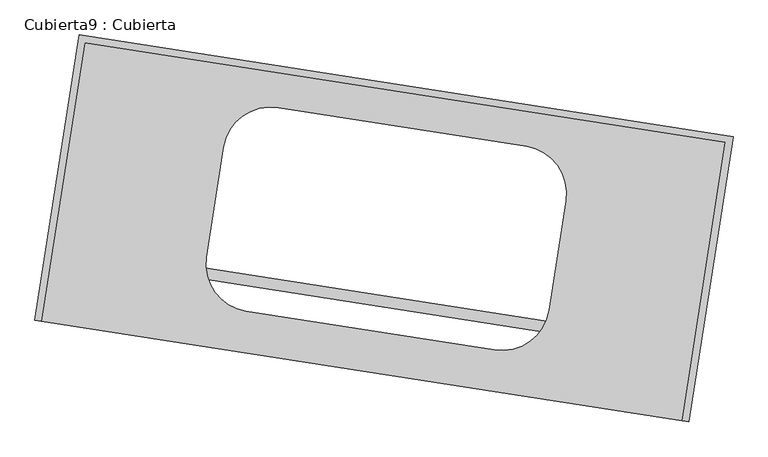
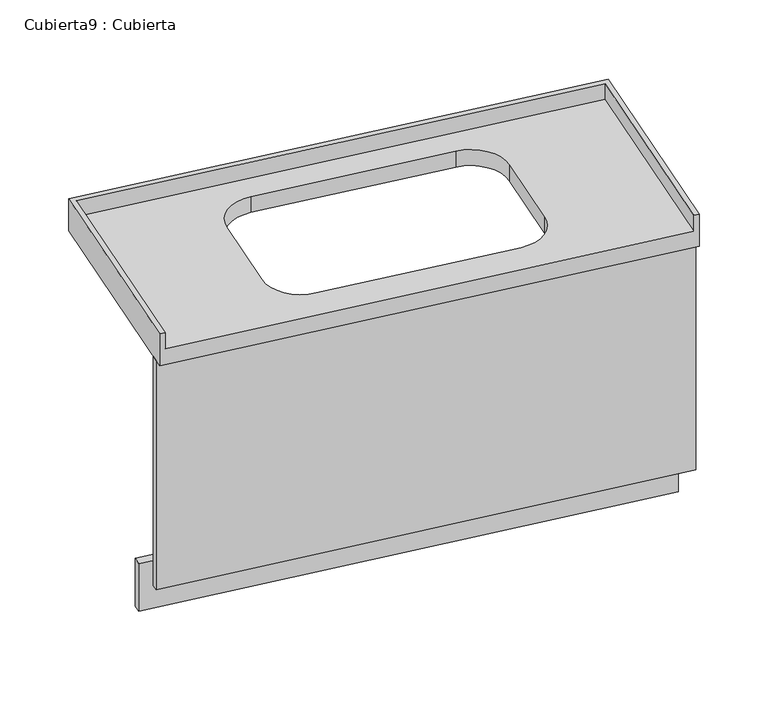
"""IFC4 building model written with IfcOpenShell, lengths in millimetres: furniture geometry, Cubierta9 : Cubierta."""

from ifc_helpers import new_model, si_unit, frame, origin, place, context, project, spatial, polyline, circle_curve, outline, extrude, source, transform, mapped, element, save
from ifc_brep_helpers import plane_surface, revolved_surface, advanced_brep


def cubierta9_cubierta_f3590e41(model_context):
    return source(origin(), model_context, "Body", "SolidModel", [
        extrude(outline(polyline([(-44296.2782533, -71757.6545898), (-45768.5015172, -71528.1798789), (-45764.6512704, -71503.4781462), (-44292.4280064, -71732.9528571), (-44296.2782533, -71757.6545898)])), frame((0.0, 0.0, 3200.0), z_axis=(0.0, 0.0, 1.0), x_axis=(1.0, 0.0, 0.0)), (0.0, 0.0, 1.0), 150.0),
        extrude(outline(polyline([(-44315.5294875, -71881.1632534), (-45787.7527514, -71651.6885425), (-45784.6725539, -71631.9271563), (-44312.44929, -71861.4018672), (-44315.5294875, -71881.1632534)])), frame((0.0, 0.0, 3350.0), z_axis=(0.0, 0.0, 1.0), x_axis=(1.0, 0.0, 0.0)), (0.0, 0.0, 1.0), 720.0),
        advanced_brep(
        [(-45776.7819586, -71678.7004233, 4120.0), (-44334.2007739, -71903.554838, 4120.0), (-44236.404504, -71276.130827, 4120.0), (-45678.9856888, -71051.2764123, 4120.0), (-45404.6020427, -71534.2969722, 4120.0), (-45366.0995742, -71287.279645, 4120.0), (-45243.8971017, -71198.0352854, 4120.0), (-44685.6379423, -71285.0508641, 4120.0), (-44596.3935828, -71407.2533366, 4120.0), (-44634.8960512, -71654.2706638, 4120.0), (-44757.0985237, -71743.5150234, 4120.0), (-45315.3576831, -71656.4994447, 4120.0), (-44219.2733163, -71263.6199354, 4070.0), (-44319.3797344, -71905.8649861, 4070.0), (-45791.6029983, -71676.3902752, 4070.0), (-45691.4965803, -71034.1452245, 4070.0), (-45404.6020427, -71534.2969722, 4070.0), (-45315.3576831, -71656.4994447, 4070.0), (-44757.0985237, -71743.5150234, 4070.0), (-44634.8960512, -71654.2706638, 4070.0), (-44596.3935828, -71407.2533366, 4070.0), (-44685.6379423, -71285.0508641, 4070.0), (-45243.8971017, -71198.0352854, 4070.0), (-45366.0995742, -71287.279645, 4070.0), (-44319.3797342, -71905.8649861, 4170.0), (-44334.2007739, -71903.554838, 4170.0), (-45776.7819586, -71678.7004233, 4170.0), (-45791.6029983, -71676.3902752, 4170.0), (-44236.404504, -71276.130827, 4170.0), (-45678.9856888, -71051.2764123, 4170.0), (-45691.4965803, -71034.1452245, 4170.0), (-44219.2733163, -71263.6199355, 4170.0)],
        [
            (0, 1),
            (1, 2),
            (2, 3),
            (3, 0),
            (4, 5),
            (5, 6, circle_curve(frame((-45260.3761582, -71303.7587015, 4120.0), z_axis=(0.0, 0.0, -1.0), x_axis=(0.9880693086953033, -0.1540098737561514, 0.0)), 107.0)),
            (6, 7),
            (7, 8, circle_curve(frame((-44702.1169988, -71390.7742801, 4120.0), z_axis=(0.0, 0.0, -1.0), x_axis=(0.9880693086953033, -0.1540098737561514, 0.0)), 107.0)),
            (8, 9),
            (9, 10, circle_curve(frame((-44740.6194672, -71637.7916073, 4120.0), z_axis=(0.0, 0.0, -1.0), x_axis=(0.9880693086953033, -0.1540098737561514, 0.0)), 107.0)),
            (10, 11),
            (11, 4, circle_curve(frame((-45298.8786266, -71550.7760286, 4120.0), z_axis=(0.0, 0.0, -1.0), x_axis=(0.9880693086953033, -0.1540098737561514, 0.0)), 107.0)),
            (12, 13),
            (13, 14),
            (14, 15),
            (15, 12),
            (16, 17, circle_curve(frame((-45298.8786266, -71550.7760286, 4070.0), z_axis=(0.0, 0.0, 1.0), x_axis=(0.9880693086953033, -0.1540098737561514, 0.0)), 107.0)),
            (17, 18),
            (18, 19, circle_curve(frame((-44740.6194672, -71637.7916073, 4070.0), z_axis=(0.0, 0.0, 1.0), x_axis=(0.9880693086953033, -0.1540098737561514, 0.0)), 107.0)),
            (19, 20),
            (20, 21, circle_curve(frame((-44702.1169988, -71390.7742801, 4070.0), z_axis=(0.0, 0.0, 1.0), x_axis=(0.9880693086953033, -0.1540098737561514, 0.0)), 107.0)),
            (21, 22),
            (22, 23, circle_curve(frame((-45260.3761582, -71303.7587015, 4070.0), z_axis=(0.0, 0.0, 1.0), x_axis=(0.9880693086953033, -0.1540098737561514, 0.0)), 107.0)),
            (23, 16),
            (24, 25),
            (25, 1),
            (0, 26),
            (26, 27),
            (27, 14),
            (13, 24),
            (2, 28),
            (28, 29),
            (29, 3),
            (15, 30),
            (30, 31),
            (31, 12),
            (4, 16),
            (23, 5),
            (22, 6),
            (21, 7),
            (20, 8),
            (19, 9),
            (18, 10),
            (17, 11),
            (31, 24),
            (25, 28),
            (30, 27),
            (26, 29),
        ],
        [
            plane_surface(frame((-45212.4380491, -71108.8158404, 4120.0), z_axis=(0.0, 0.0, 1.0000000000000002), x_axis=(-0.9880693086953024, 0.15400987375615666, 0.0))),
            plane_surface(frame((-45212.4380491, -71108.8158404, 4070.0), z_axis=(0.0, 0.0, -1.0000000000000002), x_axis=(0.9880693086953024, -0.15400987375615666, 0.0))),
            plane_surface(frame((-44319.3797342, -71905.8649861, 3220.0), z_axis=(-0.15400987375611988, -0.9880693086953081, 0.0), x_axis=(0.0, 0.0, 1.0))),
            plane_surface(frame((-44236.404504, -71276.130827, 4170.0), z_axis=(-0.15400987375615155, -0.9880693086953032, 0.0), x_axis=(-0.9880693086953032, 0.15400987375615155, 0.0))),
            plane_surface(frame((-44219.2733163, -71263.6199355, 4120.0), z_axis=(0.15400987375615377, 0.9880693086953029, 0.0), x_axis=(-0.9880693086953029, 0.15400987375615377, 0.0))),
            plane_surface(frame((-45404.6020427, -71534.2969722, 4120.0), z_axis=(0.9880693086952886, -0.1540098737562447, 0.0), x_axis=(0.0, 0.0, -1.0))),
            revolved_surface(polyline([(-45154.6527421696, -71320.23775799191, 4070.0000000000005), (-45154.6527421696, -71320.23775799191, 4120.0)]), (-45260.3761582, -71303.7587015, 3220.0), (0.0, 0.0, -1.0000000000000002)),
            plane_surface(frame((-45243.8971017, -71198.0352854, 4120.0), z_axis=(-0.15400987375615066, -0.9880693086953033, 0.0), x_axis=(0.0, 0.0, -1.0))),
            revolved_surface(polyline([(-44596.3935827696, -71407.25333659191, 4070.0000000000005), (-44596.3935827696, -71407.25333659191, 4120.0)]), (-44702.1169988, -71390.7742801, 3220.0), (0.0, 0.0, -1.0000000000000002)),
            plane_surface(frame((-44596.3935828, -71407.2533366, 4120.0), z_axis=(-0.9880693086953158, 0.15400987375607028, 0.0), x_axis=(0.0, 0.0, -1.0))),
            revolved_surface(polyline([(-44634.8960511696, -71654.2706637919, 4070.0000000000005), (-44634.8960511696, -71654.2706637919, 4120.0)]), (-44740.6194672, -71637.7916073, 3220.0), (0.0, 0.0, -1.0000000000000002)),
            plane_surface(frame((-44757.0985237, -71743.5150234, 4120.0), z_axis=(0.1540098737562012, 0.9880693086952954, 0.0), x_axis=(0.0, 0.0, -1.0))),
            revolved_surface(polyline([(-45193.1552105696, -71567.2550850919, 4070.0000000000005), (-45193.1552105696, -71567.2550850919, 4120.0)]), (-45298.8786266, -71550.7760286, 3220.0), (0.0, 0.0, -1.0000000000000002)),
            plane_surface(frame((-44319.3797342, -71905.8649861, 4120.0), z_axis=(0.9880693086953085, -0.15400987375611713, 0.0), x_axis=(0.15400987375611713, 0.9880693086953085, 0.0))),
            plane_surface(frame((-44334.2007739, -71903.554838, 4170.0), z_axis=(-0.9880693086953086, 0.15400987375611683, 0.0), x_axis=(0.15400987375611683, 0.9880693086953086, 0.0))),
            plane_surface(frame((-44319.3797342, -71905.8649861, 4170.0), z_axis=(0.0, 0.0, 1.0), x_axis=(0.15400987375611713, 0.9880693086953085, 0.0))),
            plane_surface(frame((-45691.4965803, -71034.1452245, 4120.0), z_axis=(-0.9880693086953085, 0.15400987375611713, 0.0), x_axis=(-0.15400987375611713, -0.9880693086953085, 0.0))),
            plane_surface(frame((-45678.9856888, -71051.2764123, 4170.0), z_axis=(0.988069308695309, -0.15400987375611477, 0.0), x_axis=(-0.15400987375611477, -0.988069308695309, 0.0))),
        ],
        [
            (0, [[1, 2, 3, 4], [5, 6, 7, 8, 9, 10, 11, 12]]),
            (1, [[13, 14, 15, 16], [17, 18, 19, 20, 21, 22, 23, 24]]),
            (2, [[25, 26, -1, 27, 28, 29, -14, 30]]),
            (3, [[31, 32, 33, -3]]),
            (4, [[-16, 34, 35, 36]]),
            (5, [[-5, 37, -24, 38]]),
            (6, [[-6, -38, -23, 39]]),
            (7, [[-7, -39, -22, 40]]),
            (8, [[-8, -40, -21, 41]]),
            (9, [[-9, -41, -20, 42]]),
            (10, [[-10, -42, -19, 43]]),
            (11, [[-11, -43, -18, 44]]),
            (12, [[-12, -44, -17, -37]]),
            (13, [[-30, -13, -36, 45]]),
            (14, [[-26, 46, -31, -2]]),
            (15, [[-25, -45, -35, 47, -28, 48, -32, -46]]),
            (16, [[-34, -15, -29, -47]]),
            (17, [[-33, -48, -27, -4]]),
        ],
    ),
    ])


if __name__ == "__main__":
    model = new_model("IFC4")
    model_context = context("Model", 3, world=origin())
    ifc_project = project(units=[si_unit("LENGTHUNIT", "METRE", prefix="MILLI")], contexts=[model_context])
    site = spatial("IfcSite", under=ifc_project)
    building = spatial("IfcBuilding", under=site)
    placement = place(None, origin())
    cubierta9_cubierta_shape = cubierta9_cubierta_f3590e41(model_context)
    element("IfcFurniture", 1, ObjectType="Cubierta9 : Cubierta", at=placement, inside=building, context=model_context, shape_type="MappedRepresentation", body=[
        mapped(cubierta9_cubierta_shape, transform((0.0, 0.0, 0.0), x_axis=(1.0, 0.0, 0.0), y_axis=(0.0, 1.0, 0.0), z_axis=(0.0, 0.0, 1.0))),
    ])
    save(model, "model.ifc")
